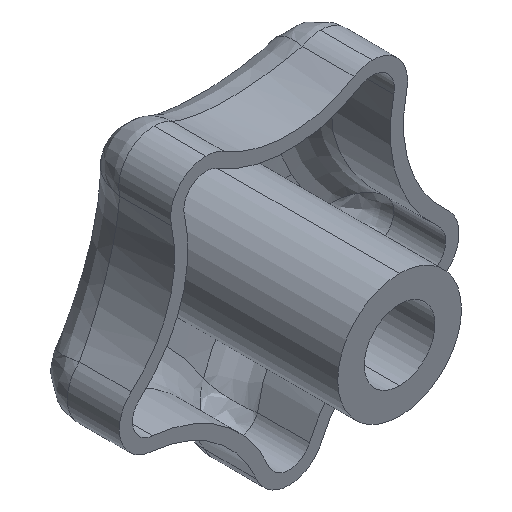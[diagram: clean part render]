
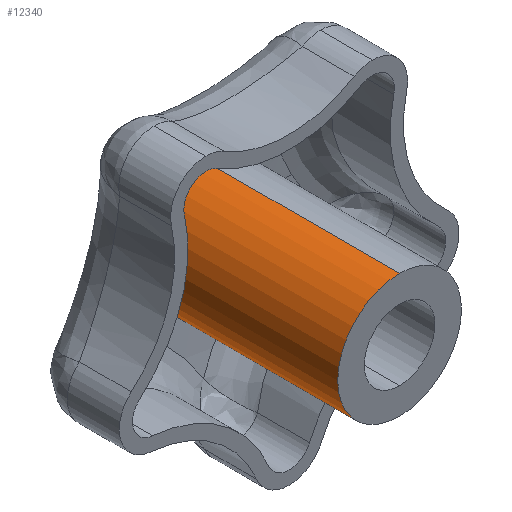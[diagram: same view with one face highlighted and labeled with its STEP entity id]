
A CAD part, isometric view. The second image highlights one B-rep face of the part: STEP entity #12340.
In plain terms, the highlighted cylindrical face has radius 7 mm (diameter 14 mm), a partial arc.
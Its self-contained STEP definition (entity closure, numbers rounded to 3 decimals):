
#3383 = FACE_OUTER_BOUND ( 'NONE', #12339, .T. ) ;
#3434 = DIRECTION ( 'NONE',  ( 0., 0., 1. ) ) ;
#3435 = DIRECTION ( 'NONE',  ( 0., 1., 0. ) ) ;
#3436 = CARTESIAN_POINT ( 'NONE',  ( 0., -12.5, 0. ) ) ;
#3437 = AXIS2_PLACEMENT_3D ( 'NONE', #3436, #3435, #3434 ) ;
#3438 = CIRCLE ( 'NONE', #3437, 7. ) ;
#3449 = DIRECTION ( 'NONE',  ( 0., 0., -1. ) ) ;
#3450 = DIRECTION ( 'NONE',  ( 0., -1., 0. ) ) ;
#3451 = AXIS2_PLACEMENT_3D ( 'NONE', #3453, #3450, #3449 ) ;
#3453 = CARTESIAN_POINT ( 'NONE',  ( 0., 500000., 0. ) ) ;
#3454 = CYLINDRICAL_SURFACE ( 'NONE', #3451, 7. ) ;
#4597 = VERTEX_POINT ( 'NONE', #8048 ) ;
#4612 = VERTEX_POINT ( 'NONE', #8083 ) ;
#4613 = EDGE_CURVE ( 'NONE', #4597, #4612, #8082, .T. ) ;
#4653 = EDGE_CURVE ( 'NONE', #4654, #4657, #8128, .T. ) ;
#4654 = VERTEX_POINT ( 'NONE', #8124 ) ;
#4657 = VERTEX_POINT ( 'NONE', #8123 ) ;
#4710 = EDGE_CURVE ( 'NONE', #4597, #4711, #8270, .T. ) ;
#4711 = VERTEX_POINT ( 'NONE', #8265 ) ;
#4715 = EDGE_CURVE ( 'NONE', #4711, #4654, #8264, .T. ) ;
#8048 = CARTESIAN_POINT ( 'NONE',  ( 0., 10.692, 7. ) ) ;
#8079 = DIRECTION ( 'NONE',  ( 0., -1., 0. ) ) ;
#8080 = VECTOR ( 'NONE', #8079, 1000. ) ;
#8081 = CARTESIAN_POINT ( 'NONE',  ( 0., 500000., 7. ) ) ;
#8082 = LINE ( 'NONE', #8081, #8080 ) ;
#8083 = CARTESIAN_POINT ( 'NONE',  ( 0., -12.5, 7. ) ) ;
#8123 = CARTESIAN_POINT ( 'NONE',  ( 0., -12.5, -7. ) ) ;
#8124 = CARTESIAN_POINT ( 'NONE',  ( 0., 10.692, -7. ) ) ;
#8125 = DIRECTION ( 'NONE',  ( 0., -1., 0. ) ) ;
#8126 = VECTOR ( 'NONE', #8125, 1000. ) ;
#8127 = CARTESIAN_POINT ( 'NONE',  ( 0., 500000., -7. ) ) ;
#8128 = LINE ( 'NONE', #8127, #8126 ) ;
#8260 = DIRECTION ( 'NONE',  ( 0., 0., -1. ) ) ;
#8261 = DIRECTION ( 'NONE',  ( 0., -1., 0. ) ) ;
#8262 = CARTESIAN_POINT ( 'NONE',  ( 0., 10.692, 0. ) ) ;
#8263 = AXIS2_PLACEMENT_3D ( 'NONE', #8262, #8261, #8260 ) ;
#8264 = CIRCLE ( 'NONE', #8263, 7. ) ;
#8265 = CARTESIAN_POINT ( 'NONE',  ( -7., 10.692, 0. ) ) ;
#8266 = DIRECTION ( 'NONE',  ( 0., 0., -1. ) ) ;
#8267 = DIRECTION ( 'NONE',  ( 0., -1., 0. ) ) ;
#8268 = CARTESIAN_POINT ( 'NONE',  ( 0., 10.692, 0. ) ) ;
#8269 = AXIS2_PLACEMENT_3D ( 'NONE', #8268, #8267, #8266 ) ;
#8270 = CIRCLE ( 'NONE', #8269, 7. ) ;
#12339 = EDGE_LOOP ( 'NONE', ( #12358, #12344, #12341, #12352, #12349 ) ) ;
#12340 = ADVANCED_FACE ( 'NONE', ( #3383 ), #3454, .T. ) ;
#12341 = ORIENTED_EDGE ( 'NONE', *, *, #4715, .T. ) ;
#12344 = ORIENTED_EDGE ( 'NONE', *, *, #4710, .T. ) ;
#12349 = ORIENTED_EDGE ( 'NONE', *, *, #12354, .T. ) ;
#12352 = ORIENTED_EDGE ( 'NONE', *, *, #4653, .T. ) ;
#12354 = EDGE_CURVE ( 'NONE', #4657, #4612, #3438, .T. ) ;
#12358 = ORIENTED_EDGE ( 'NONE', *, *, #4613, .F. ) ;
